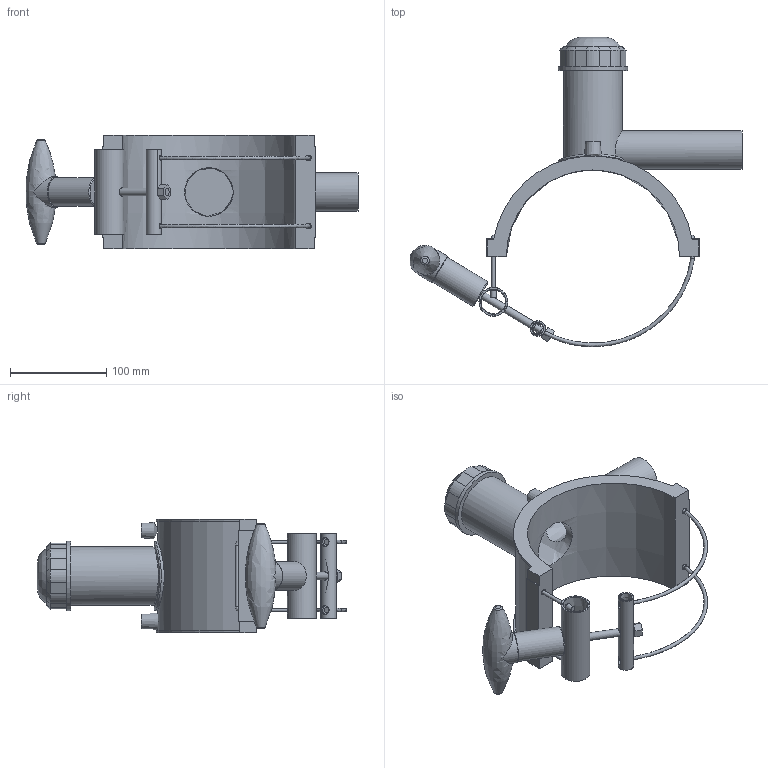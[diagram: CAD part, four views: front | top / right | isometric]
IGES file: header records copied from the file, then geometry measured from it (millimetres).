
Global section: file name: 4963Q4180040.ipt; native system: Autodesk Inventor 2019; preprocessor: unknown; author: KIM; date: 20210307.125248; units: millimetre
Bounding box: 345.18 x 321.6 x 118 mm (x, y, z)
Volume: 839542.7 mm3; surface area: 211225 mm2
Topology: 6 solids, 7 shells, 176 faces, 441 edges, 287 vertices
Faces by surface type: plane 83, cylinder 36, revolution 33, cone 15, bspline 9
Full cylindrical faces by diameter (mm): 3.6 x6, 4 x2, 6 x4, 8 x1, 16 x1, 30 x2, 32 x1, 40 x1, 61.2 x1, 72 x1
